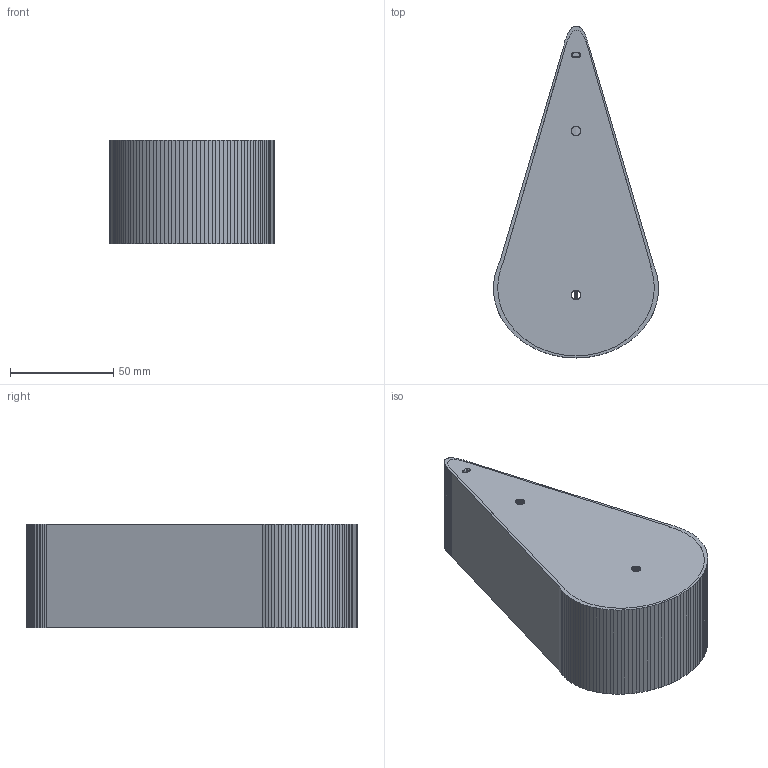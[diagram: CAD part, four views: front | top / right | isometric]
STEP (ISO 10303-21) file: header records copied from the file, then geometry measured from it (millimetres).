
FILE_DESCRIPTION(('Open CASCADE Model'),'2;1');
FILE_NAME('pinrose_unit_v2','2026-11-21T16:40:09',('Author'),( 'Open CASCADE'),'Open CASCADE STEP processor 8.0','build123d', 'Unknown');
FILE_SCHEMA(('AUTOMOTIVE_DESIGN { 1 0 10303 214 1 1 1 1 }'));
Length unit declared in the file: millimetre
Products named in the file (8): pinrose_unit_v2; pinrus_v2_cover; pinruswall_v2_bracket; motor_strap_v2; pinruso_ring; motor_placeholder_D22x55; coupler_placeholder; crank_wire_placeholder
Assembly tree (7 placements, depth 2):
  pinrose_unit_v2
    pinrus_v2_cover
    pinruswall_v2_bracket
    motor_strap_v2
    pinruso_ring
    motor_placeholder_D22x55
    coupler_placeholder
    crank_wire_placeholder
Bounding box: 80 x 161 x 50 mm (x, y, z)
Volume: 105707.9 mm3; surface area: 89748.5 mm2
Topology: 7 solids, 7 shells, 5468 faces, 11759 edges, 6309 vertices
Faces by surface type: plane 5464, cylinder 4
Full cylindrical faces by diameter (mm): 4 x1, 7 x1, 10 x1, 22 x1
Entity records: 288316 total; most frequent: CARTESIAN_POINT 50653, DIRECTION 42646, LINE 31670, VECTOR 31670, ORIENTED_EDGE 23518, PCURVE 23518, DEFINITIONAL_REPRESENTATION 23518, EDGE_CURVE 11759
